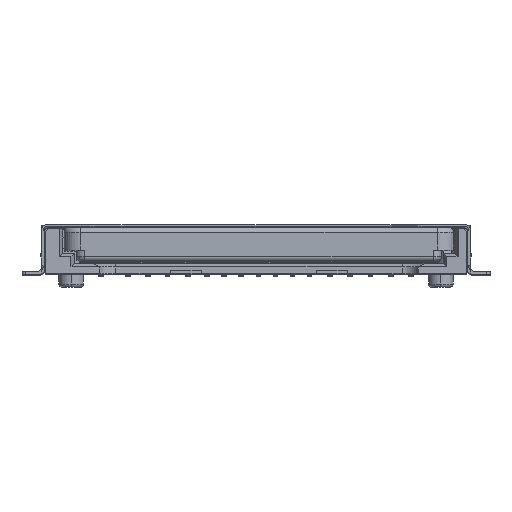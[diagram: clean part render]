
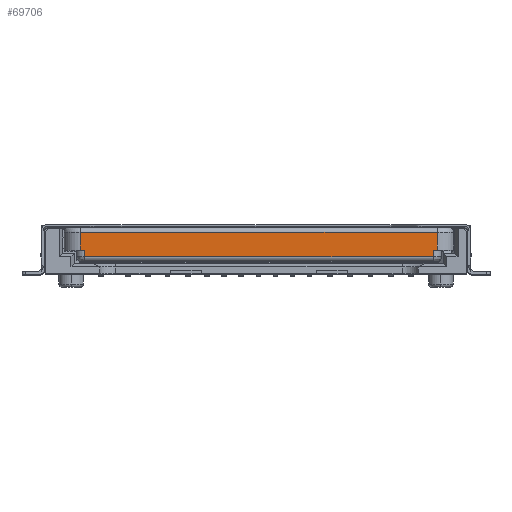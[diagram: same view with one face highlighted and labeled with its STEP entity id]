
A CAD part, top view. The second image highlights one B-rep face of the part: STEP entity #69706.
In plain terms, the highlighted planar face has unit normal (0, 0, 1).
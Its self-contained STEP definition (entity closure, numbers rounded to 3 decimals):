
#66198=DIRECTION('',(-1.,0.,0.));
#66199=VECTOR('',#66198,22.);
#66200=CARTESIAN_POINT('',(25.465,3.25,5.8));
#66201=LINE('',#66200,#66199);
#66243=DIRECTION('',(1.,0.,0.));
#66244=VECTOR('',#66243,0.25);
#66245=CARTESIAN_POINT('',(3.465,2.15,5.8));
#66246=LINE('',#66245,#66244);
#66402=DIRECTION('',(0.,-1.,0.));
#66403=VECTOR('',#66402,0.4);
#66404=CARTESIAN_POINT('',(3.715,2.15,5.8));
#66405=LINE('',#66404,#66403);
#66414=DIRECTION('',(0.,1.,0.));
#66415=VECTOR('',#66414,0.4);
#66416=CARTESIAN_POINT('',(25.215,1.75,5.8));
#66417=LINE('',#66416,#66415);
#66443=DIRECTION('',(1.,0.,0.));
#66444=VECTOR('',#66443,0.25);
#66445=CARTESIAN_POINT('',(25.215,2.15,5.8));
#66446=LINE('',#66445,#66444);
#66469=DIRECTION('',(0.,1.,0.));
#66470=VECTOR('',#66469,1.1);
#66471=CARTESIAN_POINT('',(25.465,2.15,5.8));
#66472=LINE('',#66471,#66470);
#66890=DIRECTION('',(1.,0.,0.));
#66891=VECTOR('',#66890,21.5);
#66892=CARTESIAN_POINT('',(3.715,1.75,5.8));
#66893=LINE('',#66892,#66891);
#68522=DIRECTION('',(0.,-1.,0.));
#68523=VECTOR('',#68522,1.1);
#68524=CARTESIAN_POINT('',(3.465,3.25,5.8));
#68525=LINE('',#68524,#68523);
#68588=CARTESIAN_POINT('',(25.465,3.25,5.8));
#68589=VERTEX_POINT('',#68588);
#68590=CARTESIAN_POINT('',(3.465,3.25,5.8));
#68591=VERTEX_POINT('',#68590);
#68606=CARTESIAN_POINT('',(3.465,2.15,5.8));
#68607=VERTEX_POINT('',#68606);
#68608=CARTESIAN_POINT('',(3.715,2.15,5.8));
#68609=VERTEX_POINT('',#68608);
#68654=CARTESIAN_POINT('',(3.715,1.75,5.8));
#68655=VERTEX_POINT('',#68654);
#68656=CARTESIAN_POINT('',(25.215,1.75,5.8));
#68657=CARTESIAN_POINT('',(25.215,2.15,5.8));
#68658=VERTEX_POINT('',#68656);
#68659=VERTEX_POINT('',#68657);
#68660=CARTESIAN_POINT('',(25.465,2.15,5.8));
#68661=VERTEX_POINT('',#68660);
#69686=CARTESIAN_POINT('',(26.465,3.55,5.8));
#69687=DIRECTION('',(0.,0.,1.));
#69688=DIRECTION('',(1.,0.,0.));
#69689=AXIS2_PLACEMENT_3D('',#69686,#69687,#69688);
#69690=PLANE('',#69689);
#69692=ORIENTED_EDGE('',*,*,#69691,.F.);
#69694=ORIENTED_EDGE('',*,*,#69693,.F.);
#69695=ORIENTED_EDGE('',*,*,#69677,.F.);
#69696=ORIENTED_EDGE('',*,*,#69454,.F.);
#69698=ORIENTED_EDGE('',*,*,#69697,.F.);
#69699=ORIENTED_EDGE('',*,*,#69392,.F.);
#69701=ORIENTED_EDGE('',*,*,#69700,.F.);
#69703=ORIENTED_EDGE('',*,*,#69702,.F.);
#69704=EDGE_LOOP('',(#69692,#69694,#69695,#69696,#69698,#69699,#69701,#69703));
#69705=FACE_OUTER_BOUND('',#69704,.F.);
#69392=EDGE_CURVE('',#68589,#68591,#66201,.T.);
#69454=EDGE_CURVE('',#68607,#68609,#66246,.T.);
#69677=EDGE_CURVE('',#68609,#68655,#66405,.T.);
#69691=EDGE_CURVE('',#68658,#68659,#66417,.T.);
#69693=EDGE_CURVE('',#68655,#68658,#66893,.T.);
#69697=EDGE_CURVE('',#68591,#68607,#68525,.T.);
#69700=EDGE_CURVE('',#68661,#68589,#66472,.T.);
#69702=EDGE_CURVE('',#68659,#68661,#66446,.T.);
#69706=ADVANCED_FACE('',(#69705),#69690,.T.);
